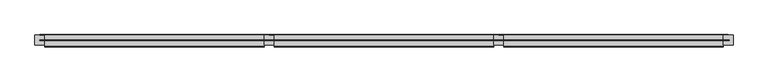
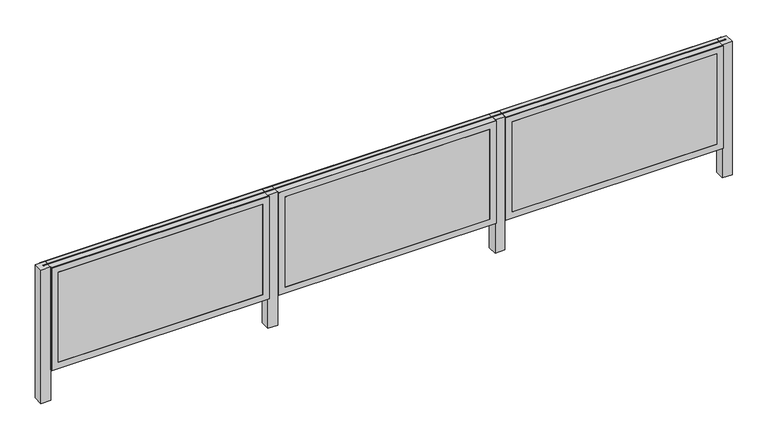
"""IFC4 building model written with IfcOpenShell, lengths in millimetres: railing geometry, NBS_MobilaneUK_CompFncPnls_NoiStop_Green."""

from ifc_helpers import new_model, si_unit, point, frame, frame_2d, origin, origin_with_axes, place, context, project, spatial, polyline, circle_curve, trimmed, segment, composite_curve, outline, extrude, source, transform, mapped, element, save


def railing_42967de5(model_context):
    return source(origin(), model_context, "Body", "SweptSolid", [
        extrude(outline(composite_curve([segment(trimmed(circle_curve(frame_2d((0.0, 1000.0)), 2.5), [point((2.5, 1000.0))], [point((-2.5, 1000.0))], False, "CARTESIAN"), True, "CONTINUOUS"), segment(trimmed(circle_curve(frame_2d((0.0, 1000.0)), 2.5), [point((-2.5, 1000.0))], [point((2.5, 1000.0))], False, "CARTESIAN"), True, "CONTINUOUS")], self_intersect=False)), frame((0.0, 0.0, 0.0), z_axis=(1.0, 0.0, 0.0), x_axis=(0.0, 1.0, 0.0)), (0.0, 0.0, 1.0), 6280.0),
        extrude(outline(polyline([(6315.0, -45.0), (6225.0, -45.0), (6225.0, 45.0), (6315.0, 45.0), (6315.0, -45.0)])), frame((0.0, 0.0, -300.0), z_axis=(0.0, 0.0, 1.0), x_axis=(1.0, 0.0, 0.0)), (0.0, 0.0, 1.0), 1297.5),
        extrude(outline(polyline([(997.5, 4225.0), (0.0, 4225.0), (0.0, 6225.0), (997.5, 6225.0), (997.5, 4225.0)]), holes=[polyline([(937.5, 4285.0), (937.5, 6165.0), (60.0, 6165.0), (60.0, 4285.0), (937.5, 4285.0)])]), frame((0.0, -62.0, 0.0), z_axis=(0.0, 1.0, 0.0), x_axis=(0.0, 0.0, 1.0)), (0.0, 0.0, 1.0), 5.0),
        extrude(outline(polyline([(4225.0, 45.0), (6225.0, 45.0), (6225.0, -57.0), (4225.0, -57.0), (4225.0, 45.0)])), origin_with_axes(), (0.0, 0.0, 1.0), 997.5),
        extrude(outline(polyline([(4285.0, -57.0), (6165.0, -57.0), (6165.0, -62.0), (4285.0, -62.0), (4285.0, -57.0)])), frame((0.0, 0.0, 60.0), z_axis=(0.0, 0.0, 1.0), x_axis=(1.0, 0.0, 0.0)), (0.0, 0.0, 1.0), 877.5),
        extrude(outline(polyline([(4285.0, 50.0), (6165.0, 50.0), (6165.0, 45.0), (4285.0, 45.0), (4285.0, 50.0)])), frame((0.0, 0.0, 60.0), z_axis=(0.0, 0.0, 1.0), x_axis=(1.0, 0.0, 0.0)), (0.0, 0.0, 1.0), 877.5),
        extrude(outline(polyline([(997.5, 4180.0), (0.0, 4180.0), (0.0, 6270.0), (997.5, 6270.0), (997.5, 4180.0)]), holes=[polyline([(937.5, 4285.0), (937.5, 6165.0), (60.0, 6165.0), (60.0, 4285.0), (937.5, 4285.0)])]), frame((0.0, 45.0, 0.0), z_axis=(0.0, 1.0, 0.0), x_axis=(0.0, 0.0, 1.0)), (0.0, 0.0, 1.0), 5.0),
        extrude(outline(polyline([(4225.0, -45.0), (4135.0, -45.0), (4135.0, 45.0), (4225.0, 45.0), (4225.0, -45.0)])), frame((0.0, 0.0, -300.0), z_axis=(0.0, 0.0, 1.0), x_axis=(1.0, 0.0, 0.0)), (0.0, 0.0, 1.0), 1297.5),
        extrude(outline(polyline([(997.5, 2135.0), (0.0, 2135.0), (0.0, 4135.0), (997.5, 4135.0), (997.5, 2135.0)]), holes=[polyline([(937.5, 2195.0), (937.5, 4075.0), (60.0, 4075.0), (60.0, 2195.0), (937.5, 2195.0)])]), frame((0.0, -62.0, 0.0), z_axis=(0.0, 1.0, 0.0), x_axis=(0.0, 0.0, 1.0)), (0.0, 0.0, 1.0), 5.0),
        extrude(outline(polyline([(2135.0, 45.0), (4135.0, 45.0), (4135.0, -57.0), (2135.0, -57.0), (2135.0, 45.0)])), origin_with_axes(), (0.0, 0.0, 1.0), 997.5),
        extrude(outline(polyline([(2195.0, -57.0), (4075.0, -57.0), (4075.0, -62.0), (2195.0, -62.0), (2195.0, -57.0)])), frame((0.0, 0.0, 60.0), z_axis=(0.0, 0.0, 1.0), x_axis=(1.0, 0.0, 0.0)), (0.0, 0.0, 1.0), 877.5),
        extrude(outline(polyline([(2195.0, 50.0), (4075.0, 50.0), (4075.0, 45.0), (2195.0, 45.0), (2195.0, 50.0)])), frame((0.0, 0.0, 60.0), z_axis=(0.0, 0.0, 1.0), x_axis=(1.0, 0.0, 0.0)), (0.0, 0.0, 1.0), 877.5),
        extrude(outline(polyline([(997.5, 2090.0), (0.0, 2090.0), (0.0, 4180.0), (997.5, 4180.0), (997.5, 2090.0)]), holes=[polyline([(937.5, 2195.0), (937.5, 4075.0), (60.0, 4075.0), (60.0, 2195.0), (937.5, 2195.0)])]), frame((0.0, 45.0, 0.0), z_axis=(0.0, 1.0, 0.0), x_axis=(0.0, 0.0, 1.0)), (0.0, 0.0, 1.0), 5.0),
        extrude(outline(polyline([(2135.0, -45.0), (2045.0, -45.0), (2045.0, 45.0), (2135.0, 45.0), (2135.0, -45.0)])), frame((0.0, 0.0, -300.0), z_axis=(0.0, 0.0, 1.0), x_axis=(1.0, 0.0, 0.0)), (0.0, 0.0, 1.0), 1297.5),
        extrude(outline(polyline([(997.5, 45.0), (0.0, 45.0), (0.0, 2045.0), (997.5, 2045.0), (997.5, 45.0)]), holes=[polyline([(937.5, 105.0), (937.5, 1985.0), (60.0, 1985.0), (60.0, 105.0), (937.5, 105.0)])]), frame((0.0, -62.0, 0.0), z_axis=(0.0, 1.0, 0.0), x_axis=(0.0, 0.0, 1.0)), (0.0, 0.0, 1.0), 5.0),
        extrude(outline(polyline([(45.0, 45.0), (2045.0, 45.0), (2045.0, -57.0), (45.0, -57.0), (45.0, 45.0)])), origin_with_axes(), (0.0, 0.0, 1.0), 997.5),
        extrude(outline(polyline([(105.0, -57.0), (1985.0, -57.0), (1985.0, -62.0), (105.0, -62.0), (105.0, -57.0)])), frame((0.0, 0.0, 60.0), z_axis=(0.0, 0.0, 1.0), x_axis=(1.0, 0.0, 0.0)), (0.0, 0.0, 1.0), 877.5),
        extrude(outline(polyline([(105.0, 50.0), (1985.0, 50.0), (1985.0, 45.0), (105.0, 45.0), (105.0, 50.0)])), frame((0.0, 0.0, 60.0), z_axis=(0.0, 0.0, 1.0), x_axis=(1.0, 0.0, 0.0)), (0.0, 0.0, 1.0), 877.5),
        extrude(outline(polyline([(997.5, 0.0), (0.0, 0.0), (0.0, 2090.0), (997.5, 2090.0), (997.5, 0.0)]), holes=[polyline([(937.5, 105.0), (937.5, 1985.0), (60.0, 1985.0), (60.0, 105.0), (937.5, 105.0)])]), frame((0.0, 45.0, 0.0), z_axis=(0.0, 1.0, 0.0), x_axis=(0.0, 0.0, 1.0)), (0.0, 0.0, 1.0), 5.0),
        extrude(outline(polyline([(45.0, -45.0), (-45.0, -45.0), (-45.0, 45.0), (45.0, 45.0), (45.0, -45.0)])), frame((0.0, 0.0, -300.0), z_axis=(0.0, 0.0, 1.0), x_axis=(1.0, 0.0, 0.0)), (0.0, 0.0, 1.0), 1297.5),
    ])


if __name__ == "__main__":
    model = new_model("IFC4")
    model_context = context("Model", 3, world=origin())
    ifc_project = project(units=[si_unit("LENGTHUNIT", "METRE", prefix="MILLI")], contexts=[model_context])
    site = spatial("IfcSite", under=ifc_project)
    building = spatial("IfcBuilding", under=site)
    placement = place(None, origin())
    railing_shape = railing_42967de5(model_context)
    element("IfcRailing", 1, ObjectType="NBS_MobilaneUK_CompFncPnls_NoiStop_Green", at=placement, inside=building, context=model_context, shape_type="MappedRepresentation", body=[
        mapped(railing_shape, transform((0.0, 0.0, 0.0), x_axis=(1.0, 0.0, 0.0), y_axis=(0.0, 1.0, 0.0), z_axis=(0.0, 0.0, 1.0))),
    ])
    save(model, "model.ifc")
